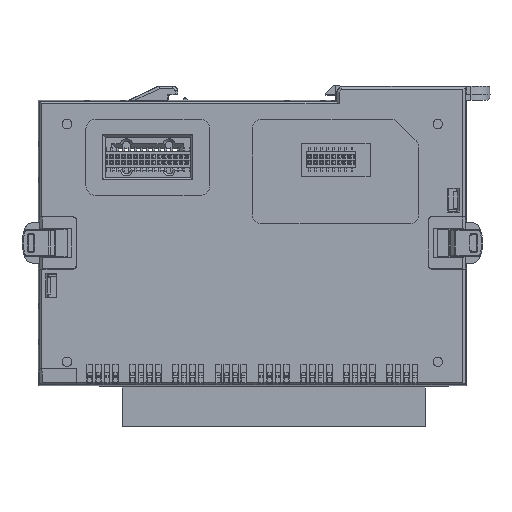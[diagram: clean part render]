
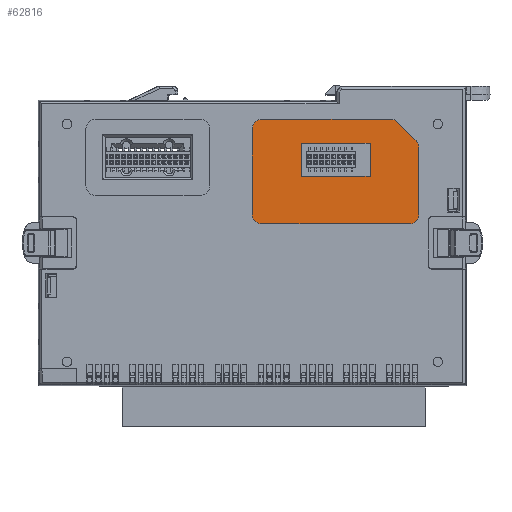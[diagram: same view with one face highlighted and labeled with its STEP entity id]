
A CAD part, left-side view. The second image highlights one B-rep face of the part: STEP entity #62816.
In plain terms, the highlighted planar face has unit normal (-1, 0, 0) as drawn and (1, 0, 0) by its records, which use the part's own axes.
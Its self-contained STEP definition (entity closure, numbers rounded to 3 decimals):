
#1645 = ORIENTED_EDGE ( 'NONE', *, *, #110743, .F. ) ;
#3138 = CARTESIAN_POINT ( 'NONE',  ( 6., -2., -6. ) ) ;
#3283 = CARTESIAN_POINT ( 'NONE',  ( 6., 0., -24. ) ) ;
#4507 = VERTEX_POINT ( 'NONE', #17372 ) ;
#4558 = DIRECTION ( 'NONE',  ( 0., 0., -1. ) ) ;
#5366 = LINE ( 'NONE', #101773, #23020 ) ;
#5747 = LINE ( 'NONE', #102766, #7922 ) ;
#7285 = VECTOR ( 'NONE', #21085, 1000. ) ;
#7922 = VECTOR ( 'NONE', #92079, 1000. ) ;
#8488 = EDGE_LOOP ( 'NONE', ( #53862, #61043, #100989, #106255, #22622, #113578, #11200, #83822, #64037, #102303 ) ) ;
#10078 = CARTESIAN_POINT ( 'NONE',  ( 6., -33., -6. ) ) ;
#10131 = DIRECTION ( 'NONE',  ( 0., 0., -1. ) ) ;
#11200 = ORIENTED_EDGE ( 'NONE', *, *, #107549, .T. ) ;
#11833 = VECTOR ( 'NONE', #22532, 1000. ) ;
#12884 = CARTESIAN_POINT ( 'NONE',  ( 6., -10.25, -14. ) ) ;
#13842 = VERTEX_POINT ( 'NONE', #123384 ) ;
#17372 = CARTESIAN_POINT ( 'NONE',  ( 6., -33., -4. ) ) ;
#17439 = CARTESIAN_POINT ( 'NONE',  ( 6., 0., 0. ) ) ;
#21085 = DIRECTION ( 'NONE',  ( 0., 0., 1. ) ) ;
#22532 = DIRECTION ( 'NONE',  ( 0., 0., -1. ) ) ;
#22622 = ORIENTED_EDGE ( 'NONE', *, *, #75179, .T. ) ;
#23020 = VECTOR ( 'NONE', #120036, 1000. ) ;
#24680 = CARTESIAN_POINT ( 'NONE',  ( 6., -10.25, -14. ) ) ;
#25018 = CIRCLE ( 'NONE', #53198, 2. ) ;
#27726 = DIRECTION ( 'NONE',  ( 0., 0., -1. ) ) ;
#28901 = VECTOR ( 'NONE', #4558, 1000. ) ;
#30279 = DIRECTION ( 'NONE',  ( 0., 0., -1. ) ) ;
#31080 = VECTOR ( 'NONE', #58846, 1000. ) ;
#31218 = CARTESIAN_POINT ( 'NONE',  ( 6., -33., -20.172 ) ) ;
#31820 = DIRECTION ( 'NONE',  ( 1., 0., 0. ) ) ;
#32606 = VERTEX_POINT ( 'NONE', #66243 ) ;
#33002 = LINE ( 'NONE', #12884, #85933 ) ;
#35556 = CARTESIAN_POINT ( 'NONE',  ( 6., -30.586, -25.414 ) ) ;
#38451 = DIRECTION ( 'NONE',  ( 1., 0., 0. ) ) ;
#39632 = CIRCLE ( 'NONE', #100013, 2. ) ;
#39855 = AXIS2_PLACEMENT_3D ( 'NONE', #58628, #38451, #10131 ) ;
#40078 = EDGE_LOOP ( 'NONE', ( #108388, #88369, #53444, #1645 ) ) ;
#40571 = LINE ( 'NONE', #78409, #7285 ) ;
#43904 = CARTESIAN_POINT ( 'NONE',  ( 6., -29.172, -26. ) ) ;
#44222 = LINE ( 'NONE', #121112, #28901 ) ;
#44245 = AXIS2_PLACEMENT_3D ( 'NONE', #10078, #106453, #27726 ) ;
#45165 = PLANE ( 'NONE',  #70419 ) ;
#45207 = VECTOR ( 'NONE', #49997, 1000. ) ;
#45500 = VERTEX_POINT ( 'NONE', #86953 ) ;
#46045 = VERTEX_POINT ( 'NONE', #51067 ) ;
#48423 = EDGE_CURVE ( 'NONE', #46045, #52993, #44222, .T. ) ;
#49035 = EDGE_CURVE ( 'NONE', #111616, #45500, #117693, .T. ) ;
#49997 = DIRECTION ( 'NONE',  ( 0., -1., 0. ) ) ;
#50416 = CARTESIAN_POINT ( 'NONE',  ( 6., -2., -26. ) ) ;
#51067 = CARTESIAN_POINT ( 'NONE',  ( 6., -24.75, -14. ) ) ;
#51505 = LINE ( 'NONE', #108855, #11833 ) ;
#52890 = VERTEX_POINT ( 'NONE', #24680 ) ;
#52993 = VERTEX_POINT ( 'NONE', #59781 ) ;
#53198 = AXIS2_PLACEMENT_3D ( 'NONE', #3138, #59238, #69313 ) ;
#53444 = ORIENTED_EDGE ( 'NONE', *, *, #48423, .F. ) ;
#53862 = ORIENTED_EDGE ( 'NONE', *, *, #90122, .T. ) ;
#55262 = FACE_BOUND ( 'NONE', #40078, .T. ) ;
#56486 = EDGE_CURVE ( 'NONE', #64638, #52890, #5366, .T. ) ;
#56618 = VERTEX_POINT ( 'NONE', #35556 ) ;
#58367 = CIRCLE ( 'NONE', #44245, 2. ) ;
#58628 = CARTESIAN_POINT ( 'NONE',  ( 6., -2., -24. ) ) ;
#58846 = DIRECTION ( 'NONE',  ( 0., 1., 0. ) ) ;
#59238 = DIRECTION ( 'NONE',  ( 1., 0., 0. ) ) ;
#59781 = CARTESIAN_POINT ( 'NONE',  ( 6., -24.75, -21. ) ) ;
#59943 = CIRCLE ( 'NONE', #39855, 2. ) ;
#60121 = DIRECTION ( 'NONE',  ( 0., -1., 0. ) ) ;
#61043 = ORIENTED_EDGE ( 'NONE', *, *, #103448, .T. ) ;
#62063 = VERTEX_POINT ( 'NONE', #50416 ) ;
#62816 = ADVANCED_FACE ( 'NONE', ( #55262, #65327 ), #45165, .T. ) ;
#63833 = CARTESIAN_POINT ( 'NONE',  ( 6., 0., -6. ) ) ;
#64037 = ORIENTED_EDGE ( 'NONE', *, *, #122931, .T. ) ;
#64638 = VERTEX_POINT ( 'NONE', #109201 ) ;
#64764 = EDGE_CURVE ( 'NONE', #52993, #64638, #105929, .T. ) ;
#65327 = FACE_OUTER_BOUND ( 'NONE', #8488, .T. ) ;
#66243 = CARTESIAN_POINT ( 'NONE',  ( 6., -35., -6. ) ) ;
#66763 = VERTEX_POINT ( 'NONE', #63833 ) ;
#69313 = DIRECTION ( 'NONE',  ( 0., 0., -1. ) ) ;
#70419 = AXIS2_PLACEMENT_3D ( 'NONE', #17439, #83622, #122044 ) ;
#75179 = EDGE_CURVE ( 'NONE', #89145, #66763, #40571, .T. ) ;
#75292 = CARTESIAN_POINT ( 'NONE',  ( 6., 0., -26. ) ) ;
#78166 = CARTESIAN_POINT ( 'NONE',  ( 6., -29.172, -24. ) ) ;
#78409 = CARTESIAN_POINT ( 'NONE',  ( 6., 0., -4. ) ) ;
#79622 = CARTESIAN_POINT ( 'NONE',  ( 6., 0., -4. ) ) ;
#80233 = LINE ( 'NONE', #79622, #45207 ) ;
#83622 = DIRECTION ( 'NONE',  ( 1., 0., 0. ) ) ;
#83822 = ORIENTED_EDGE ( 'NONE', *, *, #90310, .T. ) ;
#85933 = VECTOR ( 'NONE', #60121, 1000. ) ;
#86099 = CARTESIAN_POINT ( 'NONE',  ( 6., -35., -20.172 ) ) ;
#86953 = CARTESIAN_POINT ( 'NONE',  ( 6., -34.414, -21.586 ) ) ;
#88369 = ORIENTED_EDGE ( 'NONE', *, *, #64764, .F. ) ;
#88905 = CARTESIAN_POINT ( 'NONE',  ( 6., -10.25, -21. ) ) ;
#89145 = VERTEX_POINT ( 'NONE', #3283 ) ;
#90122 = EDGE_CURVE ( 'NONE', #45500, #56618, #5747, .T. ) ;
#90310 = EDGE_CURVE ( 'NONE', #4507, #32606, #58367, .T. ) ;
#92079 = DIRECTION ( 'NONE',  ( 0., 0.707, -0.707 ) ) ;
#95569 = AXIS2_PLACEMENT_3D ( 'NONE', #31218, #31820, #109341 ) ;
#100013 = AXIS2_PLACEMENT_3D ( 'NONE', #78166, #116607, #30279 ) ;
#100625 = EDGE_CURVE ( 'NONE', #66763, #13842, #25018, .T. ) ;
#100989 = ORIENTED_EDGE ( 'NONE', *, *, #107392, .T. ) ;
#101773 = CARTESIAN_POINT ( 'NONE',  ( 6., -10.25, -14. ) ) ;
#102303 = ORIENTED_EDGE ( 'NONE', *, *, #49035, .T. ) ;
#102766 = CARTESIAN_POINT ( 'NONE',  ( 6., -28., -28. ) ) ;
#103448 = EDGE_CURVE ( 'NONE', #56618, #122961, #39632, .T. ) ;
#105929 = LINE ( 'NONE', #88905, #114753 ) ;
#106255 = ORIENTED_EDGE ( 'NONE', *, *, #122387, .T. ) ;
#106453 = DIRECTION ( 'NONE',  ( 1., 0., 0. ) ) ;
#107392 = EDGE_CURVE ( 'NONE', #122961, #62063, #124386, .T. ) ;
#107549 = EDGE_CURVE ( 'NONE', #13842, #4507, #80233, .T. ) ;
#107799 = DIRECTION ( 'NONE',  ( 0., 1., 0. ) ) ;
#108388 = ORIENTED_EDGE ( 'NONE', *, *, #56486, .F. ) ;
#108855 = CARTESIAN_POINT ( 'NONE',  ( 6., -35., -4. ) ) ;
#109201 = CARTESIAN_POINT ( 'NONE',  ( 6., -10.25, -21. ) ) ;
#109341 = DIRECTION ( 'NONE',  ( 0., 0., -1. ) ) ;
#110743 = EDGE_CURVE ( 'NONE', #52890, #46045, #33002, .T. ) ;
#111616 = VERTEX_POINT ( 'NONE', #86099 ) ;
#113578 = ORIENTED_EDGE ( 'NONE', *, *, #100625, .T. ) ;
#114753 = VECTOR ( 'NONE', #107799, 1000. ) ;
#116607 = DIRECTION ( 'NONE',  ( 1., 0., 0. ) ) ;
#117693 = CIRCLE ( 'NONE', #95569, 2. ) ;
#120036 = DIRECTION ( 'NONE',  ( 0., 0., 1. ) ) ;
#121112 = CARTESIAN_POINT ( 'NONE',  ( 6., -24.75, -14. ) ) ;
#122044 = DIRECTION ( 'NONE',  ( 0., 0., -1. ) ) ;
#122387 = EDGE_CURVE ( 'NONE', #62063, #89145, #59943, .T. ) ;
#122931 = EDGE_CURVE ( 'NONE', #32606, #111616, #51505, .T. ) ;
#122961 = VERTEX_POINT ( 'NONE', #43904 ) ;
#123384 = CARTESIAN_POINT ( 'NONE',  ( 6., -2., -4. ) ) ;
#124386 = LINE ( 'NONE', #75292, #31080 ) ;
